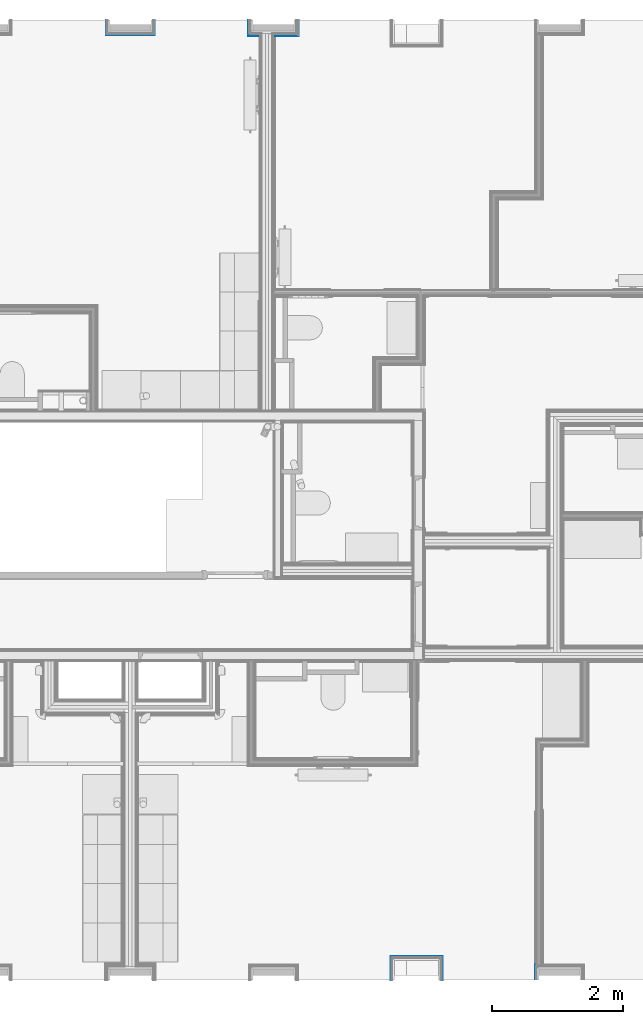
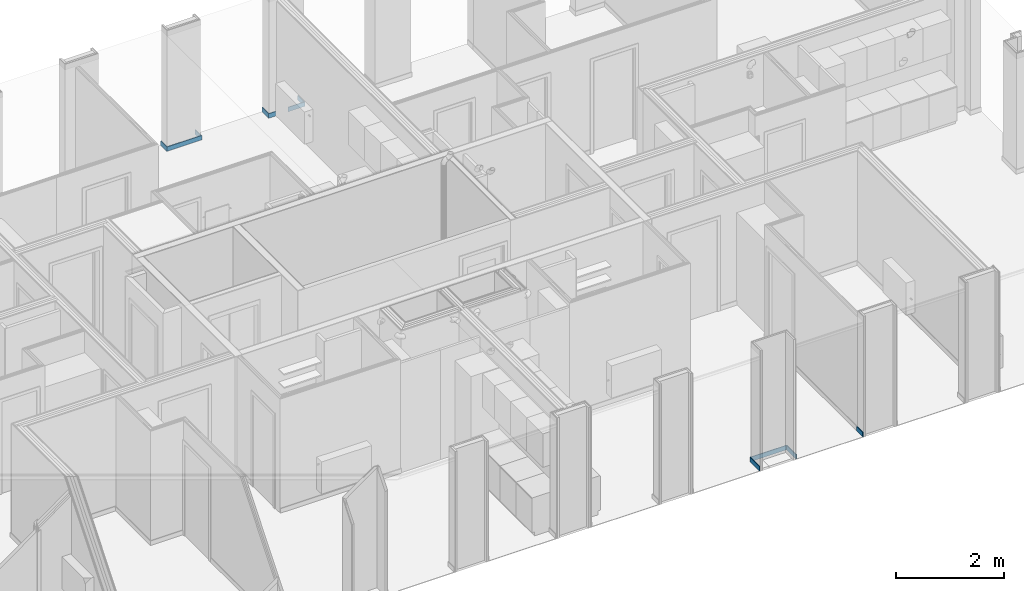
# One storey, part 35 of 85: 11 building element parts, 10 elements without a shape of their own.
"""IFC2X3 building model written with IfcOpenShell, lengths in metres."""

from ifc_helpers import new_model, entity, si_unit, converted_unit, derived_unit, money_unit, direction, frame, origin_with_axes, place, context, subcontext, project, spatial, polyline, outline, extrude, material, type_object, element, aggregate, save


model = new_model("IFC2X3")

# Units and contexts
model_context = context("Model", 3, precision=1e-05, world=origin_with_axes(), true_north=direction((0.0, 1.0)))
body_context = subcontext(model_context, "Body", "Model", "MODEL_VIEW", scale=1.0)
ifc_project = project(units=[si_unit("LENGTHUNIT", "METRE"), si_unit("AREAUNIT", "SQUARE_METRE"), si_unit("VOLUMEUNIT", "CUBIC_METRE"), si_unit("ABSORBEDDOSEUNIT", "GRAY"), si_unit("AMOUNTOFSUBSTANCEUNIT", "MOLE"), si_unit("DOSEEQUIVALENTUNIT", "SIEVERT"), si_unit("ELECTRICCAPACITANCEUNIT", "FARAD"), si_unit("ELECTRICCHARGEUNIT", "COULOMB"), si_unit("ELECTRICCONDUCTANCEUNIT", "SIEMENS"), si_unit("ELECTRICCURRENTUNIT", "AMPERE"), si_unit("ELECTRICRESISTANCEUNIT", "OHM"), si_unit("ELECTRICVOLTAGEUNIT", "VOLT"), si_unit("ENERGYUNIT", "JOULE"), si_unit("FORCEUNIT", "NEWTON"), si_unit("FREQUENCYUNIT", "HERTZ"), si_unit("ILLUMINANCEUNIT", "LUX"), si_unit("INDUCTANCEUNIT", "HENRY"), si_unit("LUMINOUSFLUXUNIT", "LUMEN"), si_unit("LUMINOUSINTENSITYUNIT", "CANDELA"), si_unit("MAGNETICFLUXDENSITYUNIT", "TESLA"), si_unit("MAGNETICFLUXUNIT", "WEBER"), si_unit("MASSUNIT", "GRAM"), converted_unit("PLANEANGLEUNIT", "degree", entity("IfcReal", 0.0174532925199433), si_unit("PLANEANGLEUNIT", "RADIAN"), dimensions=[0, 0, 0, 0, 0, 0, 0]), si_unit("POWERUNIT", "WATT"), si_unit("PRESSUREUNIT", "PASCAL"), si_unit("RADIOACTIVITYUNIT", "BECQUEREL"), si_unit("SOLIDANGLEUNIT", "STERADIAN"), si_unit("THERMODYNAMICTEMPERATUREUNIT", "KELVIN"), si_unit("TIMEUNIT", "SECOND"), derived_unit("ACCELERATIONUNIT", [(si_unit("LENGTHUNIT", "METRE"), 1), (si_unit("TIMEUNIT", "SECOND"), -2)]), derived_unit("ANGULARVELOCITYUNIT", [(converted_unit("PLANEANGLEUNIT", "degree", entity("IfcReal", 0.0174532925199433), si_unit("PLANEANGLEUNIT", "RADIAN"), dimensions=[0, 0, 0, 0, 0, 0, 0]), 1), (si_unit("TIMEUNIT", "SECOND"), -1)]), derived_unit("CURVATUREUNIT", [(converted_unit("PLANEANGLEUNIT", "degree", entity("IfcReal", 0.0174532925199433), si_unit("PLANEANGLEUNIT", "RADIAN"), dimensions=[0, 0, 0, 0, 0, 0, 0]), 1), (si_unit("LENGTHUNIT", "METRE"), -1)]), derived_unit("DYNAMICVISCOSITYUNIT", [(si_unit("PRESSUREUNIT", "PASCAL"), 1), (si_unit("TIMEUNIT", "SECOND"), 1)]), derived_unit("HEATFLUXDENSITYUNIT", [(si_unit("POWERUNIT", "WATT"), 1), (si_unit("LENGTHUNIT", "METRE"), -2)]), derived_unit("HEATINGVALUEUNIT", [(si_unit("ENERGYUNIT", "JOULE"), 1), (si_unit("MASSUNIT", "GRAM"), -1)]), derived_unit("INTEGERCOUNTRATEUNIT", [(si_unit("TIMEUNIT", "SECOND"), -1)]), derived_unit("IONCONCENTRATIONUNIT", [(si_unit("MASSUNIT", "GRAM"), 1), (si_unit("VOLUMEUNIT", "CUBIC_METRE"), -1)]), derived_unit("ISOTHERMALMOISTURECAPACITYUNIT", [(si_unit("VOLUMEUNIT", "CUBIC_METRE"), 1), (si_unit("MASSUNIT", "GRAM"), -1)]), derived_unit("KINEMATICVISCOSITYUNIT", [(si_unit("AREAUNIT", "SQUARE_METRE"), 1), (si_unit("TIMEUNIT", "SECOND"), -1)]), derived_unit("LINEARFORCEUNIT", [(si_unit("FORCEUNIT", "NEWTON"), 1), (si_unit("LENGTHUNIT", "METRE"), -1)]), derived_unit("LINEARMOMENTUNIT", [(si_unit("FORCEUNIT", "NEWTON"), 1), (si_unit("LENGTHUNIT", "METRE"), -1)]), derived_unit("LINEARSTIFFNESSUNIT", [(si_unit("FORCEUNIT", "NEWTON"), 1), (si_unit("LENGTHUNIT", "METRE"), -1)]), derived_unit("LINEARVELOCITYUNIT", [(si_unit("LENGTHUNIT", "METRE"), 1), (si_unit("TIMEUNIT", "SECOND"), -1)]), derived_unit("LUMINOUSINTENSITYDISTRIBUTIONUNIT", [(si_unit("LUMINOUSINTENSITYUNIT", "CANDELA"), 1), (si_unit("LUMINOUSFLUXUNIT", "LUMEN"), -1)]), derived_unit("MASSDENSITYUNIT", [(si_unit("MASSUNIT", "GRAM"), 1), (si_unit("VOLUMEUNIT", "CUBIC_METRE"), -1)]), derived_unit("MASSFLOWRATEUNIT", [(si_unit("MASSUNIT", "GRAM"), 1), (si_unit("TIMEUNIT", "SECOND"), -1)]), derived_unit("MASSPERLENGTHUNIT", [(si_unit("MASSUNIT", "GRAM"), 1), (si_unit("LENGTHUNIT", "METRE"), -1)]), derived_unit("MODULUSOFELASTICITYUNIT", [(si_unit("FORCEUNIT", "NEWTON"), 1), (si_unit("AREAUNIT", "SQUARE_METRE"), -1)]), derived_unit("MODULUSOFLINEARSUBGRADEREACTIONUNIT", [(si_unit("FORCEUNIT", "NEWTON"), 1), (si_unit("LENGTHUNIT", "METRE"), -2)]), derived_unit("MODULUSOFROTATIONALSUBGRADEREACTIONUNIT", [(si_unit("FORCEUNIT", "NEWTON"), 1), (si_unit("LENGTHUNIT", "METRE"), 1)]), derived_unit("MODULUSOFSUBGRADEREACTIONUNIT", [(si_unit("FORCEUNIT", "NEWTON"), 1), (si_unit("VOLUMEUNIT", "CUBIC_METRE"), -1)]), derived_unit("MOISTUREDIFFUSIVITYUNIT", [(si_unit("VOLUMEUNIT", "CUBIC_METRE"), 1), (si_unit("TIMEUNIT", "SECOND"), -1)]), derived_unit("MOLECULARWEIGHTUNIT", [(si_unit("MASSUNIT", "GRAM"), 1), (si_unit("AMOUNTOFSUBSTANCEUNIT", "MOLE"), -1)]), derived_unit("PLANARFORCEUNIT", [(si_unit("FORCEUNIT", "NEWTON"), 1), (si_unit("LENGTHUNIT", "METRE"), -2)]), derived_unit("ROTATIONALFREQUENCYUNIT", [(si_unit("TIMEUNIT", "SECOND"), -1)]), derived_unit("ROTATIONALMASSUNIT", [(si_unit("MASSUNIT", "GRAM"), 1), (si_unit("LENGTHUNIT", "METRE"), 2)]), derived_unit("ROTATIONALSTIFFNESSUNIT", [(si_unit("FORCEUNIT", "NEWTON"), 1), (si_unit("LENGTHUNIT", "METRE"), 1), (converted_unit("PLANEANGLEUNIT", "degree", entity("IfcReal", 0.0174532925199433), si_unit("PLANEANGLEUNIT", "RADIAN"), dimensions=[0, 0, 0, 0, 0, 0, 0]), -1)]), derived_unit("SECTIONAREAINTEGRALUNIT", [(si_unit("LENGTHUNIT", "METRE"), 5)]), derived_unit("SECTIONMODULUSUNIT", [(si_unit("LENGTHUNIT", "METRE"), 3)]), derived_unit("SHEARMODULUSUNIT", [(si_unit("FORCEUNIT", "NEWTON"), 1), (si_unit("AREAUNIT", "SQUARE_METRE"), -1)]), derived_unit("SOUNDPOWERUNIT", [(si_unit("ENERGYUNIT", "JOULE"), 1), (si_unit("TIMEUNIT", "SECOND"), -1)]), derived_unit("SPECIFICHEATCAPACITYUNIT", [(si_unit("FORCEUNIT", "NEWTON"), 1), (si_unit("MASSUNIT", "GRAM"), -1), (si_unit("THERMODYNAMICTEMPERATUREUNIT", "KELVIN"), -1)]), derived_unit("TEMPERATUREGRADIENTUNIT", [(si_unit("THERMODYNAMICTEMPERATUREUNIT", "KELVIN"), 1), (si_unit("LENGTHUNIT", "METRE"), -1)]), derived_unit("THERMALADMITTANCEUNIT", [(si_unit("POWERUNIT", "WATT"), 1), (si_unit("AREAUNIT", "SQUARE_METRE"), -1), (si_unit("THERMODYNAMICTEMPERATUREUNIT", "KELVIN"), -1)]), derived_unit("THERMALCONDUCTANCEUNIT", [(si_unit("POWERUNIT", "WATT"), 1), (si_unit("LENGTHUNIT", "METRE"), -1), (si_unit("THERMODYNAMICTEMPERATUREUNIT", "KELVIN"), -1)]), derived_unit("THERMALEXPANSIONCOEFFICIENTUNIT", [(si_unit("THERMODYNAMICTEMPERATUREUNIT", "KELVIN"), -1)]), derived_unit("THERMALRESISTANCEUNIT", [(si_unit("AREAUNIT", "SQUARE_METRE"), 1), (si_unit("POWERUNIT", "WATT"), -1)]), derived_unit("THERMALTRANSMITTANCEUNIT", [(si_unit("POWERUNIT", "WATT"), 1), (si_unit("AREAUNIT", "SQUARE_METRE"), -1), (si_unit("THERMODYNAMICTEMPERATUREUNIT", "KELVIN"), -1)]), derived_unit("TORQUEUNIT", [(si_unit("FORCEUNIT", "NEWTON"), 1), (si_unit("LENGTHUNIT", "METRE"), 1)]), derived_unit("VAPORPERMEABILITYUNIT", [(si_unit("MASSUNIT", "GRAM"), 1), (si_unit("TIMEUNIT", "SECOND"), -1)]), derived_unit("VOLUMETRICFLOWRATEUNIT", [(si_unit("VOLUMEUNIT", "CUBIC_METRE"), 1), (si_unit("TIMEUNIT", "SECOND"), -1)]), derived_unit("WARPINGCONSTANTUNIT", [(si_unit("LENGTHUNIT", "METRE"), 6)]), derived_unit("WARPINGMOMENTUNIT", [(si_unit("FORCEUNIT", "NEWTON"), 1), (si_unit("LENGTHUNIT", "METRE"), 2)]), money_unit("GBP")], contexts=[model_context])

# Site, building, storey
site_placement = place(None, origin_with_axes())
site = spatial("IfcSite", under=ifc_project, at=site_placement, Name="Site", CompositionType="ELEMENT")
building_placement = place(site_placement, origin_with_axes())
building = spatial("IfcBuilding", under=site, at=building_placement, Name="Building01", CompositionType="ELEMENT")
storey_placement = place(building_placement, frame((0.0, 0.0, 12.13), z_axis=(0.0, 0.0, 1.0), x_axis=(1.0, 0.0, 0.0)))
storey = spatial("IfcBuildingStorey", under=building, at=storey_placement, Name="3F", CompositionType="ELEMENT", Elevation=12.13)

# Wall, building element part
wall_type_1 = type_object("IfcWallType", Name="SHE_A-Walls_Type06d_ExternalWallInsulation_48mm", PredefinedType="NOTDEFINED")
wall_1_placement = place(storey_placement, frame((17.55, 0.1, 0.0), z_axis=(0.0, 0.0, 1.0), x_axis=(0.0, 1.0, 0.0)))
wall_1 = element("IfcWall", 1, at=wall_1_placement, inside=storey, type_object=wall_type_1, Name="6D", ObjectType="SHE_A-Walls_Type06d_ExternalWallInsulation_48mm")
ifc_material = material(Name="A_BSUK_Walls_Timber")
building_element_part_1_placement = place(wall_1_placement, origin_with_axes())
building_element_part_1 = element("IfcBuildingElementPart", 2, at=building_element_part_1_placement, material=ifc_material, Name="3", context=body_context, shape_type="SweptSolid", body=[
    extrude(outline(polyline([(0.363, 0.063), (0.0, 0.063), (0.0, 0.048), (0.348, 0.048), (0.363, 0.063)])), frame((0.0, 0.0, 0.015), z_axis=(0.0, 0.0, 1.0), x_axis=(1.0, 0.0, 0.0)), (0.0, 0.0, 1.0), 0.1),
])
aggregate(wall_1, [building_element_part_1])

wall_2_placement = place(storey_placement, frame((17.55, 0.4, 0.0), z_axis=(0.0, 0.0, 1.0), x_axis=(1.0, 0.0, 0.0)))
wall_2 = element("IfcWall", 3, at=wall_2_placement, inside=storey, type_object=wall_type_1, Name="6D", ObjectType="SHE_A-Walls_Type06d_ExternalWallInsulation_48mm")
building_element_part_2_placement = place(wall_2_placement, origin_with_axes())
building_element_part_2 = element("IfcBuildingElementPart", 4, at=building_element_part_2_placement, material=ifc_material, Name="3", context=body_context, shape_type="SweptSolid", body=[
    extrude(outline(polyline([(0.733, 0.063), (-0.063, 0.063), (-0.048, 0.048), (0.718, 0.048), (0.733, 0.063)])), frame((0.0, 0.0, 0.015), z_axis=(0.0, 0.0, 1.0), x_axis=(1.0, 0.0, 0.0)), (0.0, 0.0, 1.0), 0.1),
])
aggregate(wall_2, [building_element_part_2])

wall_3_placement = place(storey_placement, frame((18.22, 0.4, 0.0), z_axis=(0.0, 0.0, 1.0), x_axis=(0.0, -1.0, 0.0)))
wall_3 = element("IfcWall", 5, at=wall_3_placement, inside=storey, type_object=wall_type_1, Name="6D", ObjectType="SHE_A-Walls_Type06d_ExternalWallInsulation_48mm")
building_element_part_3_placement = place(wall_3_placement, origin_with_axes())
building_element_part_3 = element("IfcBuildingElementPart", 6, at=building_element_part_3_placement, material=ifc_material, Name="3", context=body_context, shape_type="SweptSolid", body=[
    extrude(outline(polyline([(-0.063, 0.063), (-0.048, 0.048), (0.3, 0.048), (0.3, 0.063), (-0.063, 0.063)])), frame((0.0, 0.0, 0.015), z_axis=(0.0, 0.0, 1.0), x_axis=(1.0, 0.0, 0.0)), (0.0, 0.0, 1.0), 0.1),
])
aggregate(wall_3, [building_element_part_3])

wall_4_placement = place(storey_placement, frame((19.763, 0.1, 0.0), z_axis=(0.0, 0.0, 1.0), x_axis=(0.0, 1.0, 0.0)))
wall_4 = element("IfcWall", 7, at=wall_4_placement, inside=storey, type_object=wall_type_1, Name="6D", ObjectType="SHE_A-Walls_Type06d_ExternalWallInsulation_48mm")
building_element_part_4_placement = place(wall_4_placement, origin_with_axes())
building_element_part_4 = element("IfcBuildingElementPart", 8, at=building_element_part_4_placement, material=ifc_material, Name="3", context=body_context, shape_type="SweptSolid", body=[
    extrude(outline(polyline([(0.233, 0.063), (0.0, 0.063), (0.0, 0.048), (0.218, 0.048), (0.233, 0.063)])), frame((0.0, 0.0, 0.015), z_axis=(0.0, 0.0, 1.0), x_axis=(1.0, 0.0, 0.0)), (0.0, 0.0, 1.0), 0.1),
])
aggregate(wall_4, [building_element_part_4])

wall_5_placement = place(storey_placement, frame((13.817, 14.8, 0.0), z_axis=(0.0, 0.0, 1.0), x_axis=(0.0, -1.0, 0.0)))
wall_5 = element("IfcWall", 9, at=wall_5_placement, inside=storey, type_object=wall_type_1, Name="6D", ObjectType="SHE_A-Walls_Type06d_ExternalWallInsulation_48mm")
building_element_part_5_placement = place(wall_5_placement, origin_with_axes())
building_element_part_5 = element("IfcBuildingElementPart", 10, at=building_element_part_5_placement, material=ifc_material, Name="3", context=body_context, shape_type="SweptSolid", body=[
    extrude(outline(polyline([(0.233, 0.063), (0.0, 0.063), (0.0, 0.048), (0.218, 0.048), (0.233, 0.063)])), frame((0.0, 0.0, 0.015), z_axis=(0.0, 0.0, 1.0), x_axis=(1.0, 0.0, 0.0)), (0.0, 0.0, 1.0), 0.1),
])
aggregate(wall_5, [building_element_part_5])

wall_6_placement = place(storey_placement, frame((13.817, 14.63, 0.0), z_axis=(0.0, 0.0, 1.0), x_axis=(-1.0, 0.0, 0.0)))
wall_6 = element("IfcWall", 11, at=wall_6_placement, inside=storey, type_object=wall_type_1, Name="6D", ObjectType="SHE_A-Walls_Type06d_ExternalWallInsulation_48mm")
building_element_part_6_placement = place(wall_6_placement, origin_with_axes())
building_element_part_6 = element("IfcBuildingElementPart", 12, at=building_element_part_6_placement, material=ifc_material, Name="3", context=body_context, shape_type="SweptSolid", body=[
    extrude(outline(polyline([(0.687, 0.063), (-0.063, 0.063), (-0.048, 0.048), (0.672, 0.048), (0.687, 0.063)])), frame((0.0, 0.0, 0.015), z_axis=(0.0, 0.0, 1.0), x_axis=(1.0, 0.0, 0.0)), (0.0, 0.0, 1.0), 0.1),
])
aggregate(wall_6, [building_element_part_6])

wall_7_placement = place(storey_placement, frame((13.193, 14.63, 0.0), z_axis=(0.0, 0.0, 1.0), x_axis=(0.0, 1.0, 0.0)))
wall_7 = element("IfcWall", 13, at=wall_7_placement, inside=storey, type_object=wall_type_1, Name="6D", ObjectType="SHE_A-Walls_Type06d_ExternalWallInsulation_48mm")
building_element_part_7_placement = place(wall_7_placement, origin_with_axes())
building_element_part_7 = element("IfcBuildingElementPart", 14, at=building_element_part_7_placement, material=ifc_material, Name="3", context=body_context, shape_type="SweptSolid", body=[
    extrude(outline(polyline([(-0.063, 0.063), (-0.048, 0.048), (0.17, 0.048), (0.17, 0.063), (-0.063, 0.063)])), frame((0.0, 0.0, 0.015), z_axis=(0.0, 0.0, 1.0), x_axis=(1.0, 0.0, 0.0)), (0.0, 0.0, 1.0), 0.1),
])
aggregate(wall_7, [building_element_part_7])

wall_type_2 = type_object("IfcWallType", Name="SHE_A-Walls_Type06f_ExternalWallInsulation_48+15mm", PredefinedType="NOTDEFINED")
wall_8_placement = place(storey_placement, frame((15.383, 14.8, 0.0), z_axis=(0.0, 0.0, 1.0), x_axis=(0.0, -1.0, 0.0)))
wall_8 = element("IfcWall", 15, at=wall_8_placement, inside=storey, type_object=wall_type_2, Name="6F", ObjectType="SHE_A-Walls_Type06f_ExternalWallInsulation_48+15mm")
building_element_part_8_placement = place(wall_8_placement, origin_with_axes())
building_element_part_8 = element("IfcBuildingElementPart", 16, at=building_element_part_8_placement, material=ifc_material, Name="1", context=body_context, shape_type="SweptSolid", body=[
    extrude(outline(polyline([(0.233, -0.063), (0.0, -0.063), (0.0, -0.078), (0.248, -0.078), (0.233, -0.063)])), frame((0.0, 0.0, 0.015), z_axis=(0.0, 0.0, 1.0), x_axis=(1.0, 0.0, 0.0)), (0.0, 0.0, 1.0), 0.1),
])
aggregate(wall_8, [building_element_part_8])

wall_9_placement = place(storey_placement, frame((16.007124, 14.8, 0.0), z_axis=(0.0, 0.0, 1.0), x_axis=(0.0, -1.0, 0.0)))
wall_9 = element("IfcWall", 17, at=wall_9_placement, inside=storey, type_object=wall_type_2, Name="6F", ObjectType="SHE_A-Walls_Type06f_ExternalWallInsulation_48+15mm")
building_element_part_9_placement = place(wall_9_placement, origin_with_axes())
building_element_part_9 = element("IfcBuildingElementPart", 18, at=building_element_part_9_placement, material=ifc_material, Name="4", context=body_context, shape_type="SweptSolid", body=[
    extrude(outline(polyline([(0.248, 0.078), (0.0, 0.078), (0.0, 0.063), (0.233, 0.063), (0.248, 0.078)])), frame((0.0, 0.0, 0.015), z_axis=(0.0, 0.0, 1.0), x_axis=(1.0, 0.0, 0.0)), (0.0, 0.0, 1.0), 0.1),
])
aggregate(wall_9, [building_element_part_9])

# Wall, building element parts
wall_10_placement = place(storey_placement, frame((16.043124, 14.63, 0.0), z_axis=(0.0, 0.0, 1.0), x_axis=(-1.0, 0.0, 0.0)))
wall_10 = element("IfcWall", 19, at=wall_10_placement, inside=storey, type_object=wall_type_2, Name="6F", ObjectType="SHE_A-Walls_Type06f_ExternalWallInsulation_48+15mm")
placement = place(wall_10_placement, origin_with_axes())
building_element_part_10 = element("IfcBuildingElementPart", 20, at=placement, material=ifc_material, Name="6", context=body_context, shape_type="SweptSolid", body=[
    extrude(outline(polyline([(-0.042, 0.078), (-0.027, 0.063), (0.319992, 0.063), (0.319992, 0.078), (-0.042, 0.078)])), frame((0.0, 0.0, 0.015), z_axis=(0.0, 0.0, 1.0), x_axis=(1.0, 0.0, 0.0)), (0.0, 0.0, 1.0), 0.1),
])
building_element_part_11 = element("IfcBuildingElementPart", 21, at=placement, material=ifc_material, Name="7", context=body_context, shape_type="SweptSolid", body=[
    extrude(outline(polyline([(0.738124, 0.078), (0.580454, 0.078), (0.580454, 0.063), (0.723124, 0.063), (0.738124, 0.078)])), frame((0.0, 0.0, 0.015), z_axis=(0.0, 0.0, 1.0), x_axis=(1.0, 0.0, 0.0)), (0.0, 0.0, 1.0), 0.1),
])
aggregate(wall_10, [building_element_part_10, building_element_part_11])

save(model, "model.ifc")
